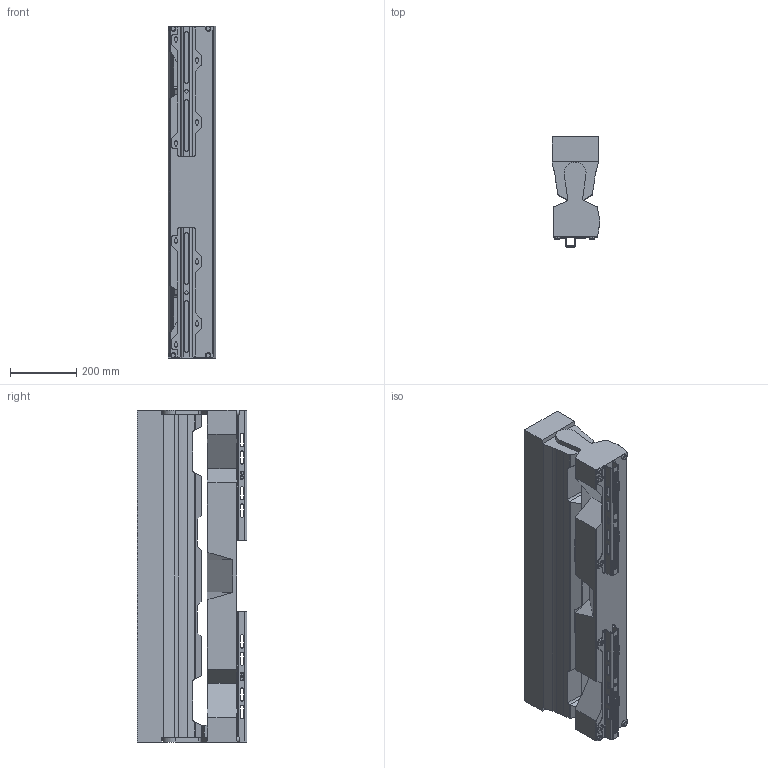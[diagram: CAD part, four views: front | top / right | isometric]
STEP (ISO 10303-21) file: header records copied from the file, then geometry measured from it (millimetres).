
FILE_DESCRIPTION((''),'2;1');
FILE_NAME('X5_IPBAR_ASM','2024-04-19T13:01:25',('MarcRapp'),(''),'CREO PARAMETRIC BY PTC INC, 2023073','CREO PARAMETRIC BY PTC INC, 2023073','');
FILE_SCHEMA(('AUTOMOTIVE_DESIGN { 1 0 10303 214 1 1 1 1 }'));
Length unit declared in the file: millimetre
Products named in the file (3): GLP-13768; GLP-10241; X5_IPBAR_ASM
Assembly tree (3 placements, depth 2):
  X5_IPBAR_ASM
    GLP-13768
    GLP-10241  x2
Bounding box: 144.28 x 331 x 1000 mm (x, y, z)
Volume: 34166292.5 mm3; surface area: 1288781.9 mm2
Topology: 3 solids, 3 shells, 522 faces, 1485 edges, 981 vertices
Faces by surface type: plane 258, cylinder 194, extrusion 54, cone 8, torus 8
Entity records: 12851 total; most frequent: CARTESIAN_POINT 2592, ORIENTED_EDGE 1948, DIRECTION 1872, EDGE_CURVE 974, VECTOR 711, LINE 684, VERTEX_POINT 640, AXIS2_PLACEMENT_3D 576
